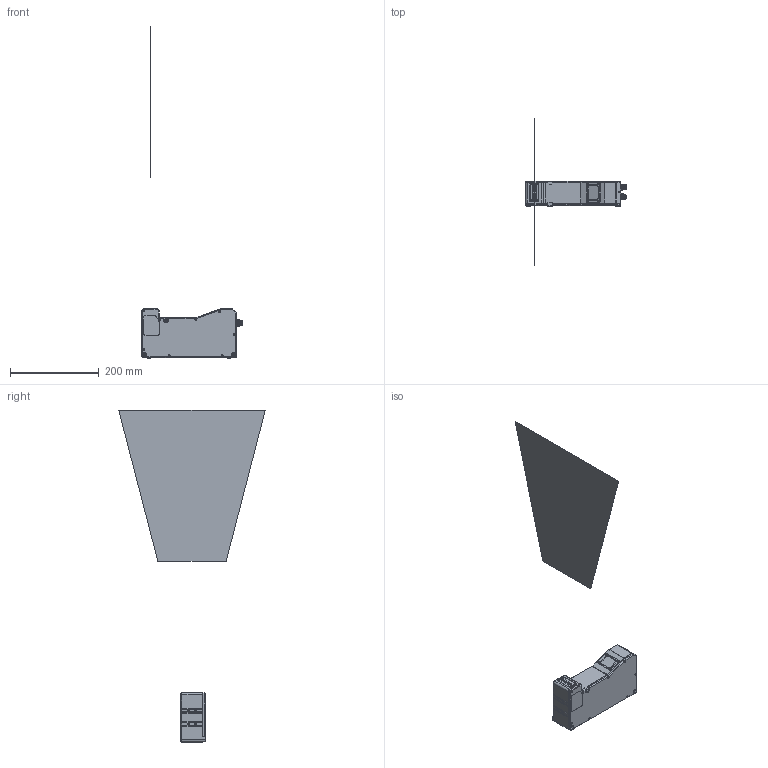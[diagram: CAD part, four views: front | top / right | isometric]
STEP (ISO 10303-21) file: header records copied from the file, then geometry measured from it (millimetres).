
FILE_DESCRIPTION((''),'2;1');
FILE_NAME('MV-DP4430-03P','2024-10-10T14:31:08',('zhujiahao9'),(''),'CREO PARAMETRIC BY PTC INC, 2020044','CREO PARAMETRIC BY PTC INC, 2020044','');
FILE_SCHEMA(('CONFIG_CONTROL_DESIGN'));
Products named in the file (1): MV-DP4430-03P
Bounding box: 226.9 x 329 x 746.07 mm (x, y, z)
Surface area: 249453.8 mm2
Topology: 1 solids, 40 shells, 778 faces, 2583 edges, 1799 vertices
Faces by surface type: plane 318, cylinder 220, cone 157, bspline 47, torus 36
Entity records: 44840 total; most frequent: CARTESIAN_POINT 23090, ORIENTED_EDGE 4356, DIRECTION 4327, EDGE_CURVE 2551, VERTEX_POINT 1799, AXIS2_PLACEMENT_3D 1529, VECTOR 1269, LINE 1269
